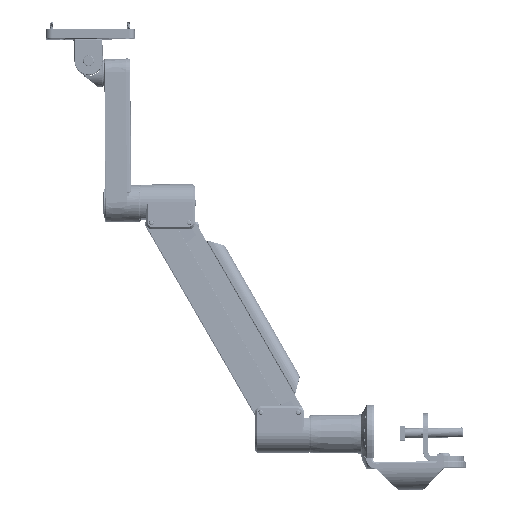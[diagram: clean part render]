
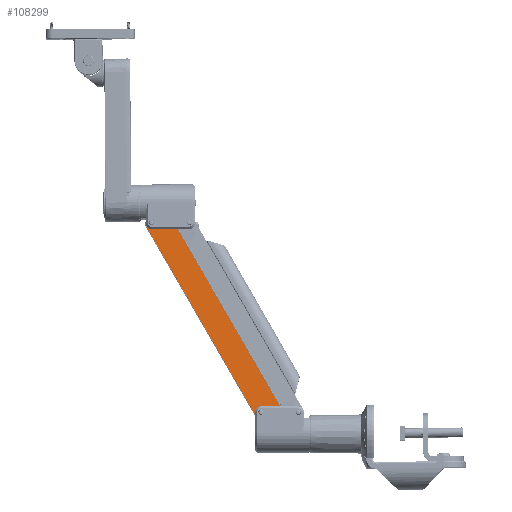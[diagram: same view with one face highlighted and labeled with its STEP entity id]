
A CAD part, left-side view. The second image highlights one B-rep face of the part: STEP entity #108299.
In plain terms, the highlighted planar face has unit normal (-0.999, 0.007, 0.049) as drawn and (-1, 0.009, 0) by its records, which use the part's own axes.
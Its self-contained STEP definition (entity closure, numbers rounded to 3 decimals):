
#6078=PLANE('',#116350);
#8240=FACE_BOUND('',#20431,.T.);
#8241=FACE_BOUND('',#20432,.T.);
#11488=ELLIPSE('',#115688,0.129,0.129);
#11490=ELLIPSE('',#115694,0.129,0.129);
#11684=ELLIPSE('',#116332,0.084,0.084);
#11685=ELLIPSE('',#116334,0.084,0.084);
#11687=ELLIPSE('',#116341,0.303,0.303);
#11688=ELLIPSE('',#116343,0.303,0.303);
#14168=FACE_OUTER_BOUND('',#20430,.T.);
#20430=EDGE_LOOP('',(#84372,#84373,#84374,#84375,#84376,#84377,#84378,#84379));
#20431=EDGE_LOOP('',(#84380));
#20432=EDGE_LOOP('',(#84381));
#27939=LINE('',#176719,#36909);
#27940=LINE('',#176782,#36910);
#27941=LINE('',#176787,#36911);
#27943=LINE('',#176857,#36913);
#36909=VECTOR('',#131348,0.394);
#36910=VECTOR('',#131365,0.394);
#36911=VECTOR('',#131370,0.394);
#36913=VECTOR('',#131384,0.394);
#49096=VERTEX_POINT('',#171089);
#49108=VERTEX_POINT('',#171181);
#49867=VERTEX_POINT('',#176712);
#49870=VERTEX_POINT('',#176717);
#49871=VERTEX_POINT('',#176745);
#49873=VERTEX_POINT('',#176775);
#49874=VERTEX_POINT('',#176780);
#49876=VERTEX_POINT('',#176785);
#49877=VERTEX_POINT('',#176819);
#49878=VERTEX_POINT('',#176852);
#61436=EDGE_CURVE('',#49096,#49096,#11488,.T.);
#61450=EDGE_CURVE('',#49108,#49108,#11490,.T.);
#62508=EDGE_CURVE('',#49870,#49867,#27939,.T.);
#62511=EDGE_CURVE('',#49867,#49871,#11684,.T.);
#62513=EDGE_CURVE('',#49873,#49870,#11685,.T.);
#62516=EDGE_CURVE('',#49871,#49874,#27940,.T.);
#62518=EDGE_CURVE('',#49876,#49873,#27941,.T.);
#62521=EDGE_CURVE('',#49874,#49877,#11687,.T.);
#62523=EDGE_CURVE('',#49878,#49876,#11688,.T.);
#62525=EDGE_CURVE('',#49877,#49878,#27943,.T.);
#84372=ORIENTED_EDGE('',*,*,#62508,.F.);
#84373=ORIENTED_EDGE('',*,*,#62513,.F.);
#84374=ORIENTED_EDGE('',*,*,#62518,.F.);
#84375=ORIENTED_EDGE('',*,*,#62523,.F.);
#84376=ORIENTED_EDGE('',*,*,#62525,.F.);
#84377=ORIENTED_EDGE('',*,*,#62521,.F.);
#84378=ORIENTED_EDGE('',*,*,#62516,.F.);
#84379=ORIENTED_EDGE('',*,*,#62511,.F.);
#84380=ORIENTED_EDGE('',*,*,#61436,.T.);
#84381=ORIENTED_EDGE('',*,*,#61450,.T.);
#108299=ADVANCED_FACE('',(#14168,#8240,#8241),#6078,.T.);
#115688=AXIS2_PLACEMENT_3D('',#171090,#129634,#129635);
#115694=AXIS2_PLACEMENT_3D('',#171182,#129648,#129649);
#116332=AXIS2_PLACEMENT_3D('',#176748,#131353,#131354);
#116334=AXIS2_PLACEMENT_3D('',#176777,#131357,#131358);
#116341=AXIS2_PLACEMENT_3D('',#176821,#131374,#131375);
#116343=AXIS2_PLACEMENT_3D('',#176854,#131378,#131379);
#116350=AXIS2_PLACEMENT_3D('',#176872,#131401,#131402);
#129634=DIRECTION('center_axis',(1.,-0.009,
0.));
#129635=DIRECTION('ref_axis',(-0.009,-1.,0.));
#129648=DIRECTION('center_axis',(1.,-0.009,
0.));
#129649=DIRECTION('ref_axis',(-0.009,-1.,0.));
#131348=DIRECTION('',(0.,0.,-1.));
#131353=DIRECTION('center_axis',(1.,-0.009,
0.));
#131354=DIRECTION('ref_axis',(-0.009,-1.,0.));
#131357=DIRECTION('center_axis',(1.,-0.009,
0.));
#131358=DIRECTION('ref_axis',(-0.009,-1.,0.));
#131365=DIRECTION('',(0.009,1.,0.));
#131370=DIRECTION('',(-0.009,-1.,0.));
#131374=DIRECTION('center_axis',(1.,-0.009,
0.));
#131375=DIRECTION('ref_axis',(0.009,1.,0.));
#131378=DIRECTION('center_axis',(1.,-0.009,
0.));
#131379=DIRECTION('ref_axis',(0.009,1.,0.));
#131384=DIRECTION('',(0.,0.,1.));
#131401=DIRECTION('center_axis',(-1.,0.009,
0.));
#131402=DIRECTION('ref_axis',(0.,0.,1.));
#171089=CARTESIAN_POINT('',(-0.697,0.488,5.61));
#171090=CARTESIAN_POINT('Origin',(-0.698,0.359,
5.61));
#171181=CARTESIAN_POINT('',(-0.697,0.488,-5.61));
#171182=CARTESIAN_POINT('Origin',(-0.698,0.359,
-5.61));
#176712=CARTESIAN_POINT('',(-0.707,-0.662,-5.828));
#176717=CARTESIAN_POINT('',(-0.707,-0.662,5.828));
#176719=CARTESIAN_POINT('',(-0.707,-0.662,0.));
#176745=CARTESIAN_POINT('',(-0.706,-0.578,-5.912));
#176748=CARTESIAN_POINT('Origin',(-0.706,-0.578,
-5.828));
#176775=CARTESIAN_POINT('',(-0.706,-0.578,5.912));
#176777=CARTESIAN_POINT('Origin',(-0.706,-0.578,
5.828));
#176780=CARTESIAN_POINT('',(-0.698,0.359,-5.912));
#176782=CARTESIAN_POINT('',(-0.7,0.092,-5.912));
#176785=CARTESIAN_POINT('',(-0.698,0.359,5.912));
#176787=CARTESIAN_POINT('',(-0.7,0.092,5.912));
#176819=CARTESIAN_POINT('',(-0.696,0.662,-5.609));
#176821=CARTESIAN_POINT('Origin',(-0.698,0.359,
-5.609));
#176852=CARTESIAN_POINT('',(-0.696,0.662,5.609));
#176854=CARTESIAN_POINT('Origin',(-0.698,0.359,
5.609));
#176857=CARTESIAN_POINT('',(-0.696,0.662,0.));
#176872=CARTESIAN_POINT('Origin',(-0.701,0.,0.));
